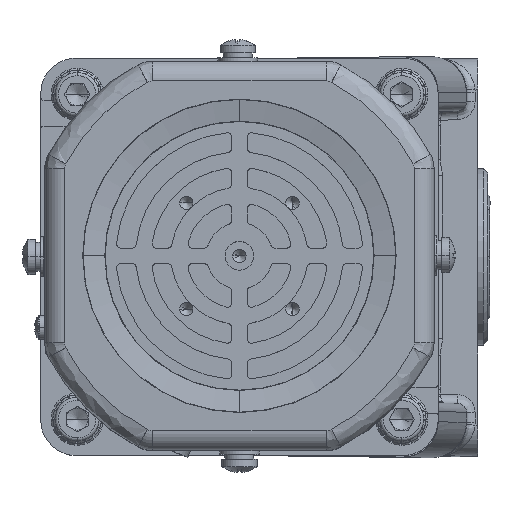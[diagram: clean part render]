
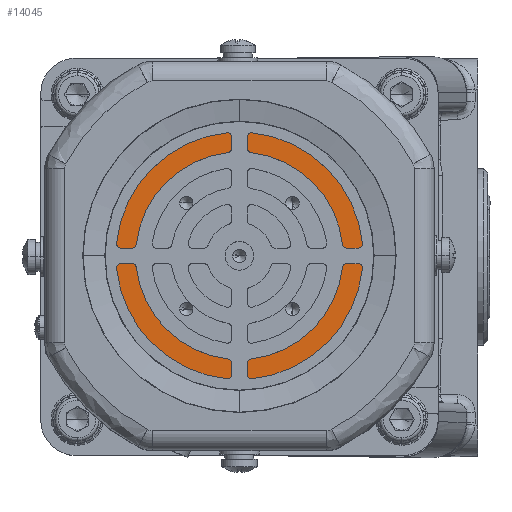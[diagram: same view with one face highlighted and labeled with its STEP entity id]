
A CAD part, top view. The second image highlights one B-rep face of the part: STEP entity #14045.
In plain terms, the highlighted planar face has unit normal (0, 0, 1) as drawn and (-1, 0, 0) by its records, which use the part's own axes.
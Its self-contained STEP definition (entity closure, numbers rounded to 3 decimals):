
#1732 = CIRCLE ( 'NONE', #75467, 1.5 ) ;
#2008 = CARTESIAN_POINT ( 'NONE',  ( -97.359, 8.969, 204.806 ) ) ;
#2723 = ORIENTED_EDGE ( 'NONE', *, *, #8712, .T. ) ;
#3472 = CARTESIAN_POINT ( 'NONE',  ( -97.359, 8.969, 148.806 ) ) ;
#3857 = AXIS2_PLACEMENT_3D ( 'NONE', #2008, #51902, #9208 ) ;
#5042 = EDGE_LOOP ( 'NONE', ( #60364, #30999 ) ) ;
#5111 = DIRECTION ( 'NONE',  ( 0., -1., 0. ) ) ;
#6383 = VERTEX_POINT ( 'NONE', #74284 ) ;
#6636 = DIRECTION ( 'NONE',  ( 0., 0., 1. ) ) ;
#8310 = EDGE_LOOP ( 'NONE', ( #58649, #12714 ) ) ;
#8555 = PLANE ( 'NONE',  #50741 ) ;
#8712 = EDGE_CURVE ( 'NONE', #52027, #33848, #62770, .T. ) ;
#9208 = DIRECTION ( 'NONE',  ( 0., -1., 0. ) ) ;
#11082 = EDGE_CURVE ( 'NONE', #52134, #47041, #54789, .T. ) ;
#11861 = EDGE_LOOP ( 'NONE', ( #2723, #65547 ) ) ;
#12714 = ORIENTED_EDGE ( 'NONE', *, *, #21644, .T. ) ;
#13112 = CARTESIAN_POINT ( 'NONE',  ( -97.359, 8.969, 199.806 ) ) ;
#14045 = ADVANCED_FACE ( 'NONE', ( #43457, #47813, #26718, #84689 ), #8555, .T. ) ;
#14299 = CARTESIAN_POINT ( 'NONE',  ( -97.359, 8.969, 150.806 ) ) ;
#15317 = EDGE_LOOP ( 'NONE', ( #55159, #56600 ) ) ;
#15470 = CARTESIAN_POINT ( 'NONE',  ( -97.359, 8.969, 149.306 ) ) ;
#15799 = DIRECTION ( 'NONE',  ( 0., 0., 1. ) ) ;
#18612 = CARTESIAN_POINT ( 'NONE',  ( -97.359, 8.969, 150.806 ) ) ;
#20099 = AXIS2_PLACEMENT_3D ( 'NONE', #37861, #86437, #44941 ) ;
#20300 = DIRECTION ( 'NONE',  ( 1., 0., 0. ) ) ;
#21517 = DIRECTION ( 'NONE',  ( 0., 0., 1. ) ) ;
#21644 = EDGE_CURVE ( 'NONE', #46416, #6383, #22067, .T. ) ;
#22067 = CIRCLE ( 'NONE', #73993, 1.5 ) ;
#25843 = DIRECTION ( 'NONE',  ( 0., 0., 1. ) ) ;
#26718 = FACE_BOUND ( 'NONE', #8310, .T. ) ;
#28911 = CARTESIAN_POINT ( 'NONE',  ( -97.359, 8.969, 155.806 ) ) ;
#29049 = AXIS2_PLACEMENT_3D ( 'NONE', #75598, #33609, #82428 ) ;
#29335 = EDGE_CURVE ( 'NONE', #6383, #46416, #40632, .T. ) ;
#30796 = CARTESIAN_POINT ( 'NONE',  ( -97.359, 10.469, 204.806 ) ) ;
#30999 = ORIENTED_EDGE ( 'NONE', *, *, #53825, .T. ) ;
#32744 = CIRCLE ( 'NONE', #56170, 22. ) ;
#33551 = CIRCLE ( 'NONE', #47024, 1.5 ) ;
#33609 = DIRECTION ( 'NONE',  ( -1., 0., 0. ) ) ;
#33765 = VERTEX_POINT ( 'NONE', #15470 ) ;
#33848 = VERTEX_POINT ( 'NONE', #3472 ) ;
#37861 = CARTESIAN_POINT ( 'NONE',  ( -97.359, 8.969, 177.806 ) ) ;
#38483 = EDGE_CURVE ( 'NONE', #33765, #69138, #1732, .T. ) ;
#40632 = CIRCLE ( 'NONE', #3857, 1.5 ) ;
#43457 = FACE_BOUND ( 'NONE', #15317, .T. ) ;
#44941 = DIRECTION ( 'NONE',  ( 0., 0., 1. ) ) ;
#46407 = AXIS2_PLACEMENT_3D ( 'NONE', #62730, #20300, #69712 ) ;
#46416 = VERTEX_POINT ( 'NONE', #30796 ) ;
#47024 = AXIS2_PLACEMENT_3D ( 'NONE', #18612, #68051, #25843 ) ;
#47041 = VERTEX_POINT ( 'NONE', #28911 ) ;
#47813 = FACE_BOUND ( 'NONE', #5042, .T. ) ;
#47871 = DIRECTION ( 'NONE',  ( 1., 0., 0. ) ) ;
#49381 = DIRECTION ( 'NONE',  ( 1., 0., 0. ) ) ;
#50741 = AXIS2_PLACEMENT_3D ( 'NONE', #51263, #58305, #15799 ) ;
#51263 = CARTESIAN_POINT ( 'NONE',  ( -97.359, 30.969, 177.806 ) ) ;
#51902 = DIRECTION ( 'NONE',  ( 1., 0., 0. ) ) ;
#52027 = VERTEX_POINT ( 'NONE', #54196 ) ;
#52134 = VERTEX_POINT ( 'NONE', #13112 ) ;
#53825 = EDGE_CURVE ( 'NONE', #47041, #52134, #32744, .T. ) ;
#54196 = CARTESIAN_POINT ( 'NONE',  ( -97.359, 8.969, 206.806 ) ) ;
#54789 = CIRCLE ( 'NONE', #46407, 22. ) ;
#55159 = ORIENTED_EDGE ( 'NONE', *, *, #77418, .T. ) ;
#56170 = AXIS2_PLACEMENT_3D ( 'NONE', #90722, #49381, #6636 ) ;
#56600 = ORIENTED_EDGE ( 'NONE', *, *, #38483, .T. ) ;
#58305 = DIRECTION ( 'NONE',  ( -1., 0., 0. ) ) ;
#58382 = EDGE_CURVE ( 'NONE', #33848, #52027, #87304, .T. ) ;
#58649 = ORIENTED_EDGE ( 'NONE', *, *, #29335, .T. ) ;
#60364 = ORIENTED_EDGE ( 'NONE', *, *, #11082, .T. ) ;
#62730 = CARTESIAN_POINT ( 'NONE',  ( -97.359, 8.969, 177.806 ) ) ;
#62770 = CIRCLE ( 'NONE', #29049, 29. ) ;
#63894 = DIRECTION ( 'NONE',  ( 1., 0., 0. ) ) ;
#65547 = ORIENTED_EDGE ( 'NONE', *, *, #58382, .T. ) ;
#68051 = DIRECTION ( 'NONE',  ( 1., 0., 0. ) ) ;
#69138 = VERTEX_POINT ( 'NONE', #89680 ) ;
#69712 = DIRECTION ( 'NONE',  ( 0., 0., 1. ) ) ;
#73993 = AXIS2_PLACEMENT_3D ( 'NONE', #89286, #47871, #5111 ) ;
#74284 = CARTESIAN_POINT ( 'NONE',  ( -97.359, 7.469, 204.806 ) ) ;
#75467 = AXIS2_PLACEMENT_3D ( 'NONE', #14299, #63894, #21517 ) ;
#75598 = CARTESIAN_POINT ( 'NONE',  ( -97.359, 8.969, 177.806 ) ) ;
#77418 = EDGE_CURVE ( 'NONE', #69138, #33765, #33551, .T. ) ;
#82428 = DIRECTION ( 'NONE',  ( 0., 0., 1. ) ) ;
#84689 = FACE_OUTER_BOUND ( 'NONE', #11861, .T. ) ;
#86437 = DIRECTION ( 'NONE',  ( -1., 0., 0. ) ) ;
#87304 = CIRCLE ( 'NONE', #20099, 29. ) ;
#89286 = CARTESIAN_POINT ( 'NONE',  ( -97.359, 8.969, 204.806 ) ) ;
#89680 = CARTESIAN_POINT ( 'NONE',  ( -97.359, 8.969, 152.306 ) ) ;
#90722 = CARTESIAN_POINT ( 'NONE',  ( -97.359, 8.969, 177.806 ) ) ;
